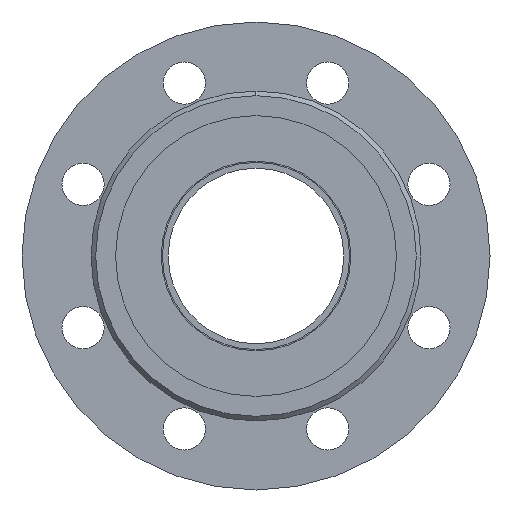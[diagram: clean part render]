
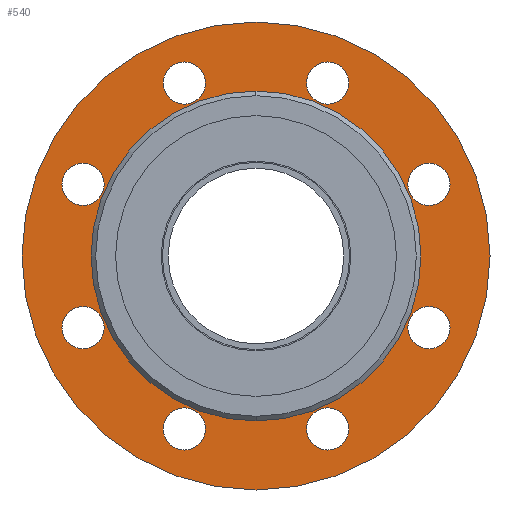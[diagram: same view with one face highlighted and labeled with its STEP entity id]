
A CAD part, left-side view. The second image highlights one B-rep face of the part: STEP entity #540.
In plain terms, the highlighted planar face has unit normal (-1, 0, 0).
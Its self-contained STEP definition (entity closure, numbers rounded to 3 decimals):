
#540=ADVANCED_FACE('',(#1009,#1010,#1011,#1012,#1013,#1014,#1015,#1016,#1017,#1018),#1019,.F.);
#1009=FACE_BOUND('',#1516,.T.);
#1010=FACE_BOUND('',#1517,.T.);
#1011=FACE_BOUND('',#1518,.T.);
#1012=FACE_BOUND('',#1519,.T.);
#1013=FACE_BOUND('',#1520,.T.);
#1014=FACE_BOUND('',#1521,.T.);
#1015=FACE_BOUND('',#1522,.T.);
#1016=FACE_BOUND('',#1523,.T.);
#1017=FACE_BOUND('',#1524,.T.);
#1018=FACE_OUTER_BOUND('',#1525,.T.);
#1019=PLANE('',#1526);
#1516=EDGE_LOOP('',(#2471,#2472));
#1517=EDGE_LOOP('',(#2473,#2474));
#1518=EDGE_LOOP('',(#2475,#2476));
#1519=EDGE_LOOP('',(#2477,#2478));
#1520=EDGE_LOOP('',(#2479,#2480));
#1521=EDGE_LOOP('',(#2481,#2482));
#1522=EDGE_LOOP('',(#2483,#2484));
#1523=EDGE_LOOP('',(#2485,#2486));
#1524=EDGE_LOOP('',(#2487,#2488));
#1525=EDGE_LOOP('',(#2489,#2490));
#1526=AXIS2_PLACEMENT_3D('',#2491,#2492,#2493);
#2471=ORIENTED_EDGE('',*,*,#2716,.T.);
#2472=ORIENTED_EDGE('',*,*,#2984,.T.);
#2473=ORIENTED_EDGE('',*,*,#2986,.T.);
#2474=ORIENTED_EDGE('',*,*,#2769,.T.);
#2475=ORIENTED_EDGE('',*,*,#2968,.T.);
#2476=ORIENTED_EDGE('',*,*,#2726,.T.);
#2477=ORIENTED_EDGE('',*,*,#3070,.T.);
#2478=ORIENTED_EDGE('',*,*,#3072,.T.);
#2479=ORIENTED_EDGE('',*,*,#3016,.T.);
#2480=ORIENTED_EDGE('',*,*,#2870,.T.);
#2481=ORIENTED_EDGE('',*,*,#3073,.T.);
#2482=ORIENTED_EDGE('',*,*,#3065,.T.);
#2483=ORIENTED_EDGE('',*,*,#2912,.T.);
#2484=ORIENTED_EDGE('',*,*,#3011,.T.);
#2485=ORIENTED_EDGE('',*,*,#2895,.T.);
#2486=ORIENTED_EDGE('',*,*,#3074,.T.);
#2487=ORIENTED_EDGE('',*,*,#3075,.T.);
#2488=ORIENTED_EDGE('',*,*,#2829,.T.);
#2489=ORIENTED_EDGE('',*,*,#3000,.F.);
#2490=ORIENTED_EDGE('',*,*,#2994,.F.);
#2491=CARTESIAN_POINT('',(5.0,0.0,0.));
#2492=DIRECTION('',(1.0,0.0,0.));
#2493=DIRECTION('',(0.,0.0,-1.0));
#2716=EDGE_CURVE('',#3165,#3163,#3166,.T.);
#2726=EDGE_CURVE('',#3183,#3181,#3184,.T.);
#2769=EDGE_CURVE('',#3259,#3257,#3260,.T.);
#2829=EDGE_CURVE('',#3357,#3355,#3358,.T.);
#2870=EDGE_CURVE('',#3423,#3421,#3424,.T.);
#2895=EDGE_CURVE('',#3451,#3455,#3457,.T.);
#2912=EDGE_CURVE('',#3476,#3480,#3482,.T.);
#2968=EDGE_CURVE('',#3181,#3183,#3554,.T.);
#2984=EDGE_CURVE('',#3163,#3165,#3573,.T.);
#2986=EDGE_CURVE('',#3257,#3259,#3575,.T.);
#2994=EDGE_CURVE('',#3585,#3583,#3587,.T.);
#3000=EDGE_CURVE('',#3583,#3585,#3594,.T.);
#3011=EDGE_CURVE('',#3480,#3476,#3606,.T.);
#3016=EDGE_CURVE('',#3421,#3423,#3611,.T.);
#3065=EDGE_CURVE('',#3671,#3669,#3672,.T.);
#3070=EDGE_CURVE('',#3675,#3677,#3679,.T.);
#3072=EDGE_CURVE('',#3677,#3675,#3681,.T.);
#3073=EDGE_CURVE('',#3669,#3671,#3682,.T.);
#3074=EDGE_CURVE('',#3455,#3451,#3683,.T.);
#3075=EDGE_CURVE('',#3355,#3357,#3684,.T.);
#3163=VERTEX_POINT('',#3786);
#3165=VERTEX_POINT('',#3789);
#3166=CIRCLE('',#3790,40.0);
#3181=VERTEX_POINT('',#3806);
#3183=VERTEX_POINT('',#3809);
#3184=CIRCLE('',#3810,9.0);
#3257=VERTEX_POINT('',#3900);
#3259=VERTEX_POINT('',#3903);
#3260=CIRCLE('',#3904,9.0);
#3355=VERTEX_POINT('',#4012);
#3357=VERTEX_POINT('',#4015);
#3358=CIRCLE('',#4016,9.0);
#3421=VERTEX_POINT('',#4090);
#3423=VERTEX_POINT('',#4093);
#3424=CIRCLE('',#4094,9.0);
#3451=VERTEX_POINT('',#4126);
#3455=VERTEX_POINT('',#4131);
#3457=CIRCLE('',#4134,9.0);
#3476=VERTEX_POINT('',#4156);
#3480=VERTEX_POINT('',#4161);
#3482=CIRCLE('',#4164,9.0);
#3554=CIRCLE('',#4244,9.0);
#3573=CIRCLE('',#4270,40.0);
#3575=CIRCLE('',#4272,9.0);
#3583=VERTEX_POINT('',#4283);
#3585=VERTEX_POINT('',#4286);
#3587=CIRCLE('',#4289,100.0);
#3594=CIRCLE('',#4296,100.0);
#3606=CIRCLE('',#4308,9.0);
#3611=CIRCLE('',#4315,9.0);
#3669=VERTEX_POINT('',#4380);
#3671=VERTEX_POINT('',#4383);
#3672=CIRCLE('',#4384,9.0);
#3675=VERTEX_POINT('',#4388);
#3677=VERTEX_POINT('',#4391);
#3679=CIRCLE('',#4394,9.0);
#3681=CIRCLE('',#4396,9.0);
#3682=CIRCLE('',#4397,9.0);
#3683=CIRCLE('',#4398,9.0);
#3684=CIRCLE('',#4399,9.0);
#3786=CARTESIAN_POINT('',(5.0,0.,-40.0));
#3789=CARTESIAN_POINT('',(5.0,0.,40.0));
#3790=AXIS2_PLACEMENT_3D('',#4474,#4475,#4476);
#3806=CARTESIAN_POINT('',(5.0,30.615,-82.91));
#3809=CARTESIAN_POINT('',(5.0,30.615,-64.91));
#3810=AXIS2_PLACEMENT_3D('',#4494,#4495,#4496);
#3900=CARTESIAN_POINT('',(5.0,73.91,-39.615));
#3903=CARTESIAN_POINT('',(5.0,73.91,-21.615));
#3904=AXIS2_PLACEMENT_3D('',#4563,#4564,#4565);
#4012=CARTESIAN_POINT('',(5.0,-30.615,-82.91));
#4015=CARTESIAN_POINT('',(5.0,-30.615,-64.91));
#4016=AXIS2_PLACEMENT_3D('',#4667,#4668,#4669);
#4090=CARTESIAN_POINT('',(5.0,-30.615,64.91));
#4093=CARTESIAN_POINT('',(5.0,-30.615,82.91));
#4094=AXIS2_PLACEMENT_3D('',#4739,#4740,#4741);
#4126=CARTESIAN_POINT('',(5.0,-73.91,-39.615));
#4131=CARTESIAN_POINT('',(5.0,-73.91,-21.615));
#4134=AXIS2_PLACEMENT_3D('',#4773,#4774,#4775);
#4156=CARTESIAN_POINT('',(5.0,30.615,64.91));
#4161=CARTESIAN_POINT('',(5.0,30.615,82.91));
#4164=AXIS2_PLACEMENT_3D('',#4799,#4800,#4801);
#4244=AXIS2_PLACEMENT_3D('',#4891,#4892,#4893);
#4270=AXIS2_PLACEMENT_3D('',#4910,#4911,#4912);
#4272=AXIS2_PLACEMENT_3D('',#4913,#4914,#4915);
#4283=CARTESIAN_POINT('',(5.,0.0,-100.0));
#4286=CARTESIAN_POINT('',(5.,0.,100.0));
#4289=AXIS2_PLACEMENT_3D('',#4921,#4922,#4923);
#4296=AXIS2_PLACEMENT_3D('',#4930,#4931,#4932);
#4308=AXIS2_PLACEMENT_3D('',#4948,#4949,#4950);
#4315=AXIS2_PLACEMENT_3D('',#4953,#4954,#4955);
#4380=CARTESIAN_POINT('',(5.0,73.91,21.615));
#4383=CARTESIAN_POINT('',(5.0,73.91,39.615));
#4384=AXIS2_PLACEMENT_3D('',#5018,#5019,#5020);
#4388=CARTESIAN_POINT('',(5.0,-73.91,21.615));
#4391=CARTESIAN_POINT('',(5.0,-73.91,39.615));
#4394=AXIS2_PLACEMENT_3D('',#5024,#5025,#5026);
#4396=AXIS2_PLACEMENT_3D('',#5027,#5028,#5029);
#4397=AXIS2_PLACEMENT_3D('',#5030,#5031,#5032);
#4398=AXIS2_PLACEMENT_3D('',#5033,#5034,#5035);
#4399=AXIS2_PLACEMENT_3D('',#5036,#5037,#5038);
#4474=CARTESIAN_POINT('',(5.0,0.0,0.));
#4475=DIRECTION('',(1.0,0.0,0.));
#4476=DIRECTION('',(0.,0.0,-1.0));
#4494=CARTESIAN_POINT('',(5.0,30.615,-73.91));
#4495=DIRECTION('',(1.0,0.0,0.));
#4496=DIRECTION('',(0.,0.0,-1.0));
#4563=CARTESIAN_POINT('',(5.0,73.91,-30.615));
#4564=DIRECTION('',(1.0,0.0,0.));
#4565=DIRECTION('',(0.,0.0,-1.0));
#4667=CARTESIAN_POINT('',(5.0,-30.615,-73.91));
#4668=DIRECTION('',(1.0,0.0,0.));
#4669=DIRECTION('',(0.,0.0,-1.0));
#4739=CARTESIAN_POINT('',(5.0,-30.615,73.91));
#4740=DIRECTION('',(1.0,0.0,0.));
#4741=DIRECTION('',(0.,0.0,-1.0));
#4773=CARTESIAN_POINT('',(5.0,-73.91,-30.615));
#4774=DIRECTION('',(1.0,0.0,0.));
#4775=DIRECTION('',(0.,0.0,-1.0));
#4799=CARTESIAN_POINT('',(5.0,30.615,73.91));
#4800=DIRECTION('',(1.0,0.0,0.));
#4801=DIRECTION('',(0.,0.0,-1.0));
#4891=CARTESIAN_POINT('',(5.0,30.615,-73.91));
#4892=DIRECTION('',(1.0,0.0,0.));
#4893=DIRECTION('',(0.,0.0,-1.0));
#4910=CARTESIAN_POINT('',(5.0,0.0,0.));
#4911=DIRECTION('',(1.0,0.0,0.));
#4912=DIRECTION('',(0.,0.0,-1.0));
#4913=CARTESIAN_POINT('',(5.0,73.91,-30.615));
#4914=DIRECTION('',(1.0,0.0,0.));
#4915=DIRECTION('',(0.,0.0,-1.0));
#4921=CARTESIAN_POINT('',(5.0,0.0,0.));
#4922=DIRECTION('',(1.0,0.0,0.));
#4923=DIRECTION('',(0.,0.0,-1.0));
#4930=CARTESIAN_POINT('',(5.0,0.0,0.));
#4931=DIRECTION('',(1.0,0.0,0.));
#4932=DIRECTION('',(0.,0.0,-1.0));
#4948=CARTESIAN_POINT('',(5.0,30.615,73.91));
#4949=DIRECTION('',(1.0,0.0,0.));
#4950=DIRECTION('',(0.,0.0,-1.0));
#4953=CARTESIAN_POINT('',(5.0,-30.615,73.91));
#4954=DIRECTION('',(1.0,0.0,0.));
#4955=DIRECTION('',(0.,0.0,-1.0));
#5018=CARTESIAN_POINT('',(5.0,73.91,30.615));
#5019=DIRECTION('',(1.0,0.0,0.));
#5020=DIRECTION('',(0.,0.0,-1.0));
#5024=CARTESIAN_POINT('',(5.0,-73.91,30.615));
#5025=DIRECTION('',(1.0,0.0,0.));
#5026=DIRECTION('',(0.,0.0,-1.0));
#5027=CARTESIAN_POINT('',(5.0,-73.91,30.615));
#5028=DIRECTION('',(1.0,0.0,0.));
#5029=DIRECTION('',(0.,0.0,-1.0));
#5030=CARTESIAN_POINT('',(5.0,73.91,30.615));
#5031=DIRECTION('',(1.0,0.0,0.));
#5032=DIRECTION('',(0.,0.0,-1.0));
#5033=CARTESIAN_POINT('',(5.0,-73.91,-30.615));
#5034=DIRECTION('',(1.0,0.0,0.));
#5035=DIRECTION('',(0.,0.0,-1.0));
#5036=CARTESIAN_POINT('',(5.0,-30.615,-73.91));
#5037=DIRECTION('',(1.0,0.0,0.));
#5038=DIRECTION('',(0.,0.0,-1.0));
